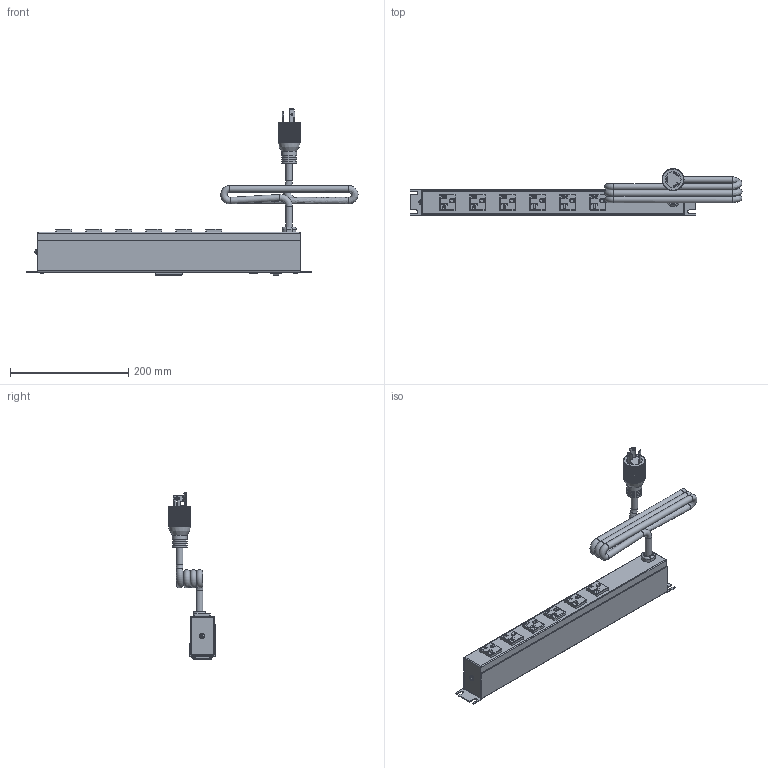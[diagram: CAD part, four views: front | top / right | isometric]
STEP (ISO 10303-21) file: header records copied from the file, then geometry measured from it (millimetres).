
FILE_DESCRIPTION((''),'2;1');
FILE_NAME('E:\Dutton\Manufacturing\drawings\Updated 2009\POWER BARS\1589 AM series\STEP''s\1589T6C1BKRRAM.stp','2010-01-12T15:45:48',('tfoster'),(''),'Autodesk Inventor 2010','Autodesk Inventor 2010','');
FILE_SCHEMA(('AUTOMOTIVE_DESIGN { 1 0 10303 214 1 1 1 1 }'));
Products named in the file (12): 1589T6C1BKRRAM; 1589H6 Front Panel; Amp reader; Amp top; 1589H6 back plate; Reset Switch; toothwasher; round head 1-way 8-32 x 0.5 screw; #6x0.5 type A; 20 amp Twist Cored; 20 Amp Receptacle; Pilot light
Assembly tree (19 placements, depth 2):
  1589T6C1BKRRAM
    1589H6 Front Panel
    Amp reader
    Amp top
    1589H6 back plate
    Reset Switch
    toothwasher
    round head 1-way 8-32 x 0.5 screw
    #6x0.5 type A  x4
    20 amp Twist Cored
    20 Amp Receptacle  x6
    Pilot light
Bounding box: 560.88 x 78.32 x 281.09 mm (x, y, z)
Volume: 454718.4 mm3; surface area: 321793.5 mm2
Topology: 19 solids, 19 shells, 1248 faces, 3580 edges, 2384 vertices
Faces by surface type: plane 859, cylinder 214, bspline 93, cone 37, sphere 29, torus 16
Full cylindrical faces by diameter (mm): 1.803 x3, 1.905 x2, 2.362 x8, 2.794 x3, 2.997 x4, 4.3 x1, 4.801 x1, 5.563 x4, 7.849 x1, 11 x4, 12.5 x1, 19.05 x1, 22.606 x2, 25.146 x3, 26.67 x1
Entity records: 30536 total; most frequent: CARTESIAN_POINT 8976, ORIENTED_EDGE 4578, DIRECTION 4077, EDGE_CURVE 2289, VERTEX_POINT 1552, VECTOR 1507, LINE 1507, AXIS2_PLACEMENT_3D 1285
